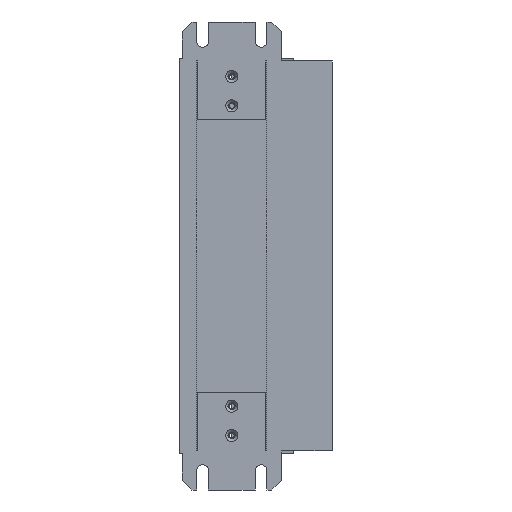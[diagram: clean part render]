
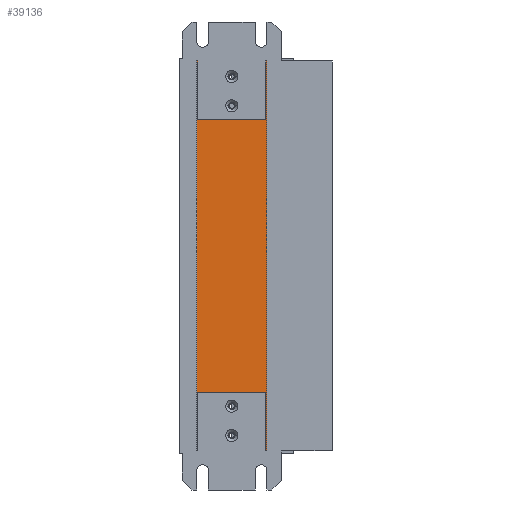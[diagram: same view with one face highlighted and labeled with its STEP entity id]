
A CAD part, left-side view. The second image highlights one B-rep face of the part: STEP entity #39136.
In plain terms, the highlighted planar face has unit normal (-1, 0, 0).
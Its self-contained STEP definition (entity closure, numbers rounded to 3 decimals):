
#2872=DIRECTION('',(0.,-1.,0.));
#2873=VECTOR('',#2872,35.);
#2874=CARTESIAN_POINT('',(2.,49.,30.));
#2875=LINE('',#2874,#2873);
#2876=DIRECTION('',(0.,0.,1.));
#2877=VECTOR('',#2876,30.);
#2878=CARTESIAN_POINT('',(2.,49.,0.));
#2879=LINE('',#2878,#2877);
#2880=DIRECTION('',(0.,-1.,0.));
#2881=VECTOR('',#2880,0.5);
#2882=CARTESIAN_POINT('',(2.,49.5,0.));
#2883=LINE('',#2882,#2881);
#2884=DIRECTION('',(0.,-1.,0.));
#2885=VECTOR('',#2884,0.5);
#2886=CARTESIAN_POINT('',(2.,49.5,200.));
#2887=LINE('',#2886,#2885);
#2888=DIRECTION('',(0.,0.,-1.));
#2889=VECTOR('',#2888,30.);
#2890=CARTESIAN_POINT('',(2.,49.,200.));
#2891=LINE('',#2890,#2889);
#2892=DIRECTION('',(0.,1.,0.));
#2893=VECTOR('',#2892,35.);
#2894=CARTESIAN_POINT('',(2.,14.,170.));
#2895=LINE('',#2894,#2893);
#2896=DIRECTION('',(0.,0.,-1.));
#2897=VECTOR('',#2896,30.);
#2898=CARTESIAN_POINT('',(2.,14.,200.));
#2899=LINE('',#2898,#2897);
#2900=DIRECTION('',(0.,1.,0.));
#2901=VECTOR('',#2900,0.5);
#2902=CARTESIAN_POINT('',(2.,13.5,200.));
#2903=LINE('',#2902,#2901);
#2904=DIRECTION('',(0.,0.,1.));
#2905=VECTOR('',#2904,200.);
#2906=CARTESIAN_POINT('',(2.,13.5,0.));
#2907=LINE('',#2906,#2905);
#2908=DIRECTION('',(0.,1.,0.));
#2909=VECTOR('',#2908,0.5);
#2910=CARTESIAN_POINT('',(2.,13.5,0.));
#2911=LINE('',#2910,#2909);
#2912=DIRECTION('',(0.,0.,1.));
#2913=VECTOR('',#2912,30.);
#2914=CARTESIAN_POINT('',(2.,14.,0.));
#2915=LINE('',#2914,#2913);
#2924=DIRECTION('',(0.,0.,1.));
#2925=VECTOR('',#2924,200.);
#2926=CARTESIAN_POINT('',(2.,49.5,0.));
#2927=LINE('',#2926,#2925);
#35640=CARTESIAN_POINT('',(2.,13.5,200.));
#35642=VERTEX_POINT('',#35640);
#35651=CARTESIAN_POINT('',(2.,14.,170.));
#35652=CARTESIAN_POINT('',(2.,49.,170.));
#35653=VERTEX_POINT('',#35651);
#35654=VERTEX_POINT('',#35652);
#35655=CARTESIAN_POINT('',(2.,14.,200.));
#35656=VERTEX_POINT('',#35655);
#35657=CARTESIAN_POINT('',(2.,49.5,200.));
#35658=CARTESIAN_POINT('',(2.,49.,200.));
#35659=VERTEX_POINT('',#35657);
#35660=VERTEX_POINT('',#35658);
#35746=CARTESIAN_POINT('',(2.,13.5,0.));
#35748=VERTEX_POINT('',#35746);
#35757=CARTESIAN_POINT('',(2.,49.,30.));
#35758=CARTESIAN_POINT('',(2.,14.,30.));
#35759=VERTEX_POINT('',#35757);
#35760=VERTEX_POINT('',#35758);
#35761=CARTESIAN_POINT('',(2.,49.,0.));
#35762=VERTEX_POINT('',#35761);
#35763=CARTESIAN_POINT('',(2.,49.5,0.));
#35764=VERTEX_POINT('',#35763);
#35765=CARTESIAN_POINT('',(2.,14.,0.));
#35766=VERTEX_POINT('',#35765);
#39106=CARTESIAN_POINT('',(2.,49.5,200.));
#39107=DIRECTION('',(1.,0.,0.));
#39108=DIRECTION('',(0.,0.,-1.));
#39109=AXIS2_PLACEMENT_3D('',#39106,#39107,#39108);
#39110=PLANE('',#39109);
#39112=ORIENTED_EDGE('',*,*,#39111,.F.);
#39114=ORIENTED_EDGE('',*,*,#39113,.F.);
#39116=ORIENTED_EDGE('',*,*,#39115,.F.);
#39118=ORIENTED_EDGE('',*,*,#39117,.T.);
#39120=ORIENTED_EDGE('',*,*,#39119,.T.);
#39122=ORIENTED_EDGE('',*,*,#39121,.T.);
#39124=ORIENTED_EDGE('',*,*,#39123,.F.);
#39126=ORIENTED_EDGE('',*,*,#39125,.F.);
#39128=ORIENTED_EDGE('',*,*,#39127,.F.);
#39129=ORIENTED_EDGE('',*,*,#39098,.F.);
#39131=ORIENTED_EDGE('',*,*,#39130,.T.);
#39133=ORIENTED_EDGE('',*,*,#39132,.T.);
#39134=EDGE_LOOP('',(#39112,#39114,#39116,#39118,#39120,#39122,#39124,#39126,
#39128,#39129,#39131,#39133));
#39135=FACE_OUTER_BOUND('',#39134,.F.);
#39098=EDGE_CURVE('',#35748,#35642,#2907,.T.);
#39111=EDGE_CURVE('',#35759,#35760,#2875,.T.);
#39113=EDGE_CURVE('',#35762,#35759,#2879,.T.);
#39115=EDGE_CURVE('',#35764,#35762,#2883,.T.);
#39117=EDGE_CURVE('',#35764,#35659,#2927,.T.);
#39119=EDGE_CURVE('',#35659,#35660,#2887,.T.);
#39121=EDGE_CURVE('',#35660,#35654,#2891,.T.);
#39123=EDGE_CURVE('',#35653,#35654,#2895,.T.);
#39125=EDGE_CURVE('',#35656,#35653,#2899,.T.);
#39127=EDGE_CURVE('',#35642,#35656,#2903,.T.);
#39130=EDGE_CURVE('',#35748,#35766,#2911,.T.);
#39132=EDGE_CURVE('',#35766,#35760,#2915,.T.);
#39136=ADVANCED_FACE('',(#39135),#39110,.F.);
